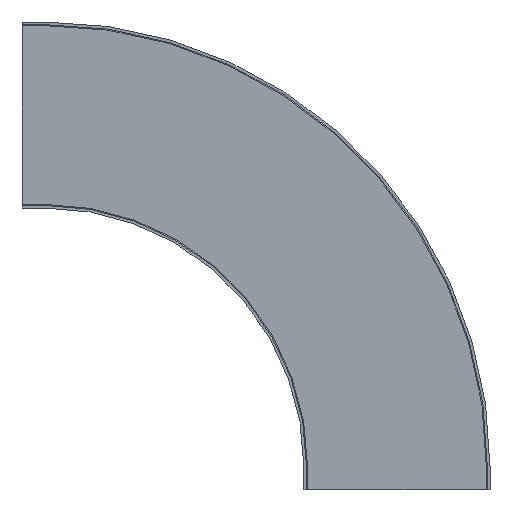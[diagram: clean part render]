
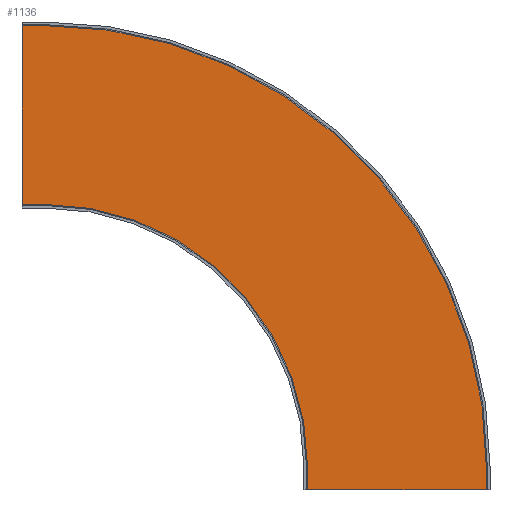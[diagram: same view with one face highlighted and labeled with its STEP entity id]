
A CAD part, front view. The second image highlights one B-rep face of the part: STEP entity #1136.
In plain terms, the highlighted planar face has unit normal (0, -1, 0).
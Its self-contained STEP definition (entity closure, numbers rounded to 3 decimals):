
#2 = EDGE_LOOP ( 'NONE', ( #180, #2054, #75, #770, #781, #2029, #1440, #880 ) ) ;
#37 = DIRECTION ( 'NONE',  ( 0., 1., 0. ) ) ;
#64 = EDGE_CURVE ( 'NONE', #261, #1778, #692, .T. ) ;
#75 = ORIENTED_EDGE ( 'NONE', *, *, #962, .F. ) ;
#99 = CARTESIAN_POINT ( 'NONE',  ( -52.5, -68.25, 1003.2 ) ) ;
#104 = DIRECTION ( 'NONE',  ( -1., 0., 0. ) ) ;
#113 = DIRECTION ( 'NONE',  ( 0., 0., 1. ) ) ;
#118 = DIRECTION ( 'NONE',  ( 0., 1., 0. ) ) ;
#160 = CARTESIAN_POINT ( 'NONE',  ( 596.8, -68.25, -52.5 ) ) ;
#178 = CIRCLE ( 'NONE', #1342, 1003.2 ) ;
#180 = ORIENTED_EDGE ( 'NONE', *, *, #64, .T. ) ;
#261 = VERTEX_POINT ( 'NONE', #2087 ) ;
#265 = LINE ( 'NONE', #1236, #1688 ) ;
#489 = VERTEX_POINT ( 'NONE', #1676 ) ;
#499 = LINE ( 'NONE', #1539, #1502 ) ;
#501 = VERTEX_POINT ( 'NONE', #2264 ) ;
#528 = VECTOR ( 'NONE', #540, 1000. ) ;
#540 = DIRECTION ( 'NONE',  ( 0., 0., 1. ) ) ;
#590 = CARTESIAN_POINT ( 'NONE',  ( 0., -68.25, 1003.2 ) ) ;
#616 = EDGE_CURVE ( 'NONE', #1589, #1773, #1598, .T. ) ;
#681 = EDGE_CURVE ( 'NONE', #1130, #2308, #499, .T. ) ;
#692 = CIRCLE ( 'NONE', #1506, 596.8 ) ;
#770 = ORIENTED_EDGE ( 'NONE', *, *, #681, .T. ) ;
#780 = VECTOR ( 'NONE', #1457, 1000. ) ;
#781 = ORIENTED_EDGE ( 'NONE', *, *, #2361, .F. ) ;
#822 = VECTOR ( 'NONE', #1302, 1000. ) ;
#831 = DIRECTION ( 'NONE',  ( -1., 0., 0. ) ) ;
#880 = ORIENTED_EDGE ( 'NONE', *, *, #894, .T. ) ;
#894 = EDGE_CURVE ( 'NONE', #489, #261, #1141, .T. ) ;
#962 = EDGE_CURVE ( 'NONE', #1130, #501, #265, .T. ) ;
#1130 = VERTEX_POINT ( 'NONE', #2013 ) ;
#1136 = ADVANCED_FACE ( 'NONE', ( #1558 ), #2412, .F. ) ;
#1141 = LINE ( 'NONE', #1846, #780 ) ;
#1183 = CARTESIAN_POINT ( 'NONE',  ( 0., -68.25, 0. ) ) ;
#1228 = LINE ( 'NONE', #160, #528 ) ;
#1236 = CARTESIAN_POINT ( 'NONE',  ( 0., -68.25, -52.5 ) ) ;
#1249 = CARTESIAN_POINT ( 'NONE',  ( 0., -68.25, 596.8 ) ) ;
#1253 = EDGE_CURVE ( 'NONE', #501, #1778, #1228, .T. ) ;
#1302 = DIRECTION ( 'NONE',  ( 1., 0., 0. ) ) ;
#1342 = AXIS2_PLACEMENT_3D ( 'NONE', #2118, #37, #1583 ) ;
#1385 = DIRECTION ( 'NONE',  ( 0., 1., 0. ) ) ;
#1391 = CARTESIAN_POINT ( 'NONE',  ( 596.8, -68.25, 0. ) ) ;
#1440 = ORIENTED_EDGE ( 'NONE', *, *, #2110, .F. ) ;
#1457 = DIRECTION ( 'NONE',  ( 1., 0., 0. ) ) ;
#1461 = CARTESIAN_POINT ( 'NONE',  ( -52.5, -68.25, 0. ) ) ;
#1502 = VECTOR ( 'NONE', #1936, 1000. ) ;
#1506 = AXIS2_PLACEMENT_3D ( 'NONE', #1183, #1385, #831 ) ;
#1539 = CARTESIAN_POINT ( 'NONE',  ( 1003.2, -68.25, -52.5 ) ) ;
#1558 = FACE_OUTER_BOUND ( 'NONE', #2, .T. ) ;
#1561 = CARTESIAN_POINT ( 'NONE',  ( -52.5, -68.25, 1003.2 ) ) ;
#1562 = CARTESIAN_POINT ( 'NONE',  ( 1003.2, -68.25, 0. ) ) ;
#1583 = DIRECTION ( 'NONE',  ( -1., 0., 0. ) ) ;
#1589 = VERTEX_POINT ( 'NONE', #99 ) ;
#1598 = LINE ( 'NONE', #1561, #822 ) ;
#1649 = DIRECTION ( 'NONE',  ( -1., 0., 0. ) ) ;
#1676 = CARTESIAN_POINT ( 'NONE',  ( -52.5, -68.25, 596.8 ) ) ;
#1688 = VECTOR ( 'NONE', #1649, 1000. ) ;
#1773 = VERTEX_POINT ( 'NONE', #590 ) ;
#1778 = VERTEX_POINT ( 'NONE', #1391 ) ;
#1846 = CARTESIAN_POINT ( 'NONE',  ( -52.5, -68.25, 596.8 ) ) ;
#1872 = VECTOR ( 'NONE', #113, 1000. ) ;
#1936 = DIRECTION ( 'NONE',  ( 0., 0., 1. ) ) ;
#1968 = AXIS2_PLACEMENT_3D ( 'NONE', #1249, #118, #104 ) ;
#2013 = CARTESIAN_POINT ( 'NONE',  ( 1003.2, -68.25, -52.5 ) ) ;
#2029 = ORIENTED_EDGE ( 'NONE', *, *, #616, .F. ) ;
#2054 = ORIENTED_EDGE ( 'NONE', *, *, #1253, .F. ) ;
#2087 = CARTESIAN_POINT ( 'NONE',  ( 0., -68.25, 596.8 ) ) ;
#2110 = EDGE_CURVE ( 'NONE', #489, #1589, #2263, .T. ) ;
#2118 = CARTESIAN_POINT ( 'NONE',  ( 0., -68.25, 0. ) ) ;
#2263 = LINE ( 'NONE', #1461, #1872 ) ;
#2264 = CARTESIAN_POINT ( 'NONE',  ( 596.8, -68.25, -52.5 ) ) ;
#2308 = VERTEX_POINT ( 'NONE', #1562 ) ;
#2361 = EDGE_CURVE ( 'NONE', #1773, #2308, #178, .T. ) ;
#2412 = PLANE ( 'NONE',  #1968 ) ;
